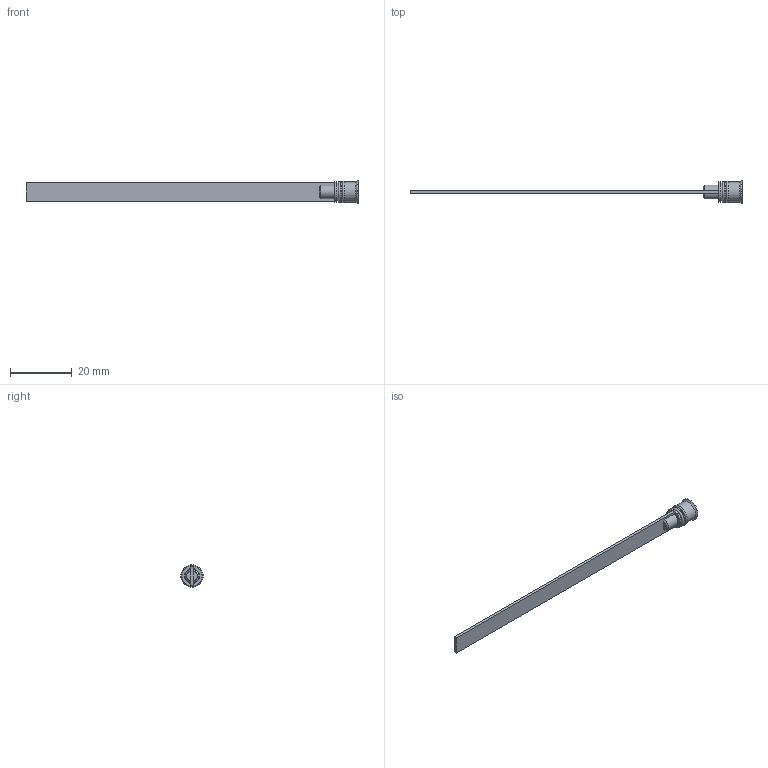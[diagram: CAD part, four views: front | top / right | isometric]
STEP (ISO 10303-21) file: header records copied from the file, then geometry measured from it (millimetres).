
FILE_DESCRIPTION( ( 'STEP AP214' ), '1' );
FILE_NAME( 'p:/temp/worker_238/temp/exporttempdir_5788_1040_OtzNy/format_0/RL-6x100.stp', '2021-02-05T19:38:54', ( 'License CC BY-ND 4.0' ), ( 'CADENAS' ), ' ', 'PARTsolutions', ' ' );
FILE_SCHEMA( ( 'AUTOMOTIVE_DESIGN { 1 0 10303 214 1 1 1 1 }' ) );
Length unit declared in the file: millimetre
Products named in the file (1): _RL-6x100
Bounding box: 107.5 x 7.4 x 7.4 mm (x, y, z)
Volume: 856.9 mm3; surface area: 1820.3 mm2
Topology: 1 solids, 1 shells, 47 faces, 114 edges, 74 vertices
Faces by surface type: plane 27, cylinder 9, cone 7, torus 4
Full cylindrical faces by diameter (mm): 3.9 x1, 6.5 x3, 7.4 x1
Entity records: 1742 total; most frequent: CARTESIAN_POINT 284, DIRECTION 216, ORIENTED_EDGE 206, EDGE_CURVE 103, AXIS2_PLACEMENT_3D 79, VERTEX_POINT 75, EDGE_LOOP 62, LINE 58
